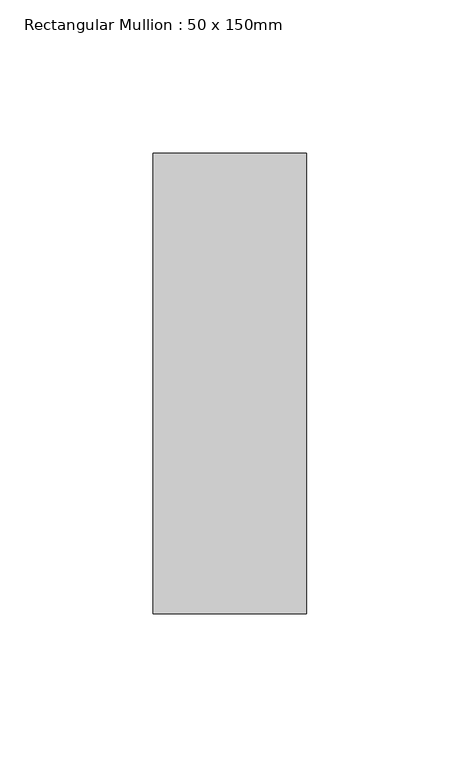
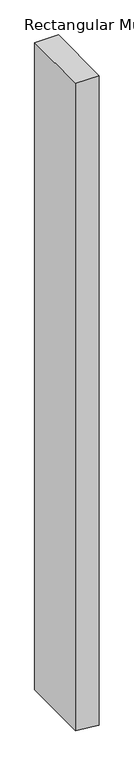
"""IFC4 building model written with IfcOpenShell, lengths in millimetres: member geometry, Rectangular Mullion : 50 x 150mm."""

from ifc_helpers import new_model, si_unit, frame, origin, place, context, project, spatial, polyline, outline, extrude, source, transform, mapped, element, save


def rectangular_mullion_50_x_150mm_00890ee2(model_context):
    return source(origin(), model_context, "Body", "SweptSolid", [
        extrude(outline(polyline([(0.0, 25.0), (0.0, -25.0), (-1449.1523941, -25.0), (-1452.6325533, 5.6423937), (-1454.8310615, 25.0), (0.0, 25.0)])), frame((0.0, -75.0, 0.0), z_axis=(0.0, 1.0, 0.0), x_axis=(0.0, 0.0, 1.0)), (0.0, 0.0, 1.0), 150.0),
    ])


if __name__ == "__main__":
    model = new_model("IFC4")
    model_context = context("Model", 3, world=origin())
    ifc_project = project(units=[si_unit("LENGTHUNIT", "METRE", prefix="MILLI")], contexts=[model_context])
    site = spatial("IfcSite", under=ifc_project)
    building = spatial("IfcBuilding", under=site)
    placement = place(None, origin())
    rectangular_mullion_50_x_150mm_shape = rectangular_mullion_50_x_150mm_00890ee2(model_context)
    element("IfcMember", 1, ObjectType="Rectangular Mullion : 50 x 150mm", at=placement, inside=building, context=model_context, shape_type="MappedRepresentation", body=[
        mapped(rectangular_mullion_50_x_150mm_shape, transform((0.0, 0.0, 0.0), x_axis=(1.0, 0.0, 0.0), y_axis=(0.0, 1.0, 0.0), z_axis=(0.0, 0.0, 1.0))),
    ])
    save(model, "model.ifc")
